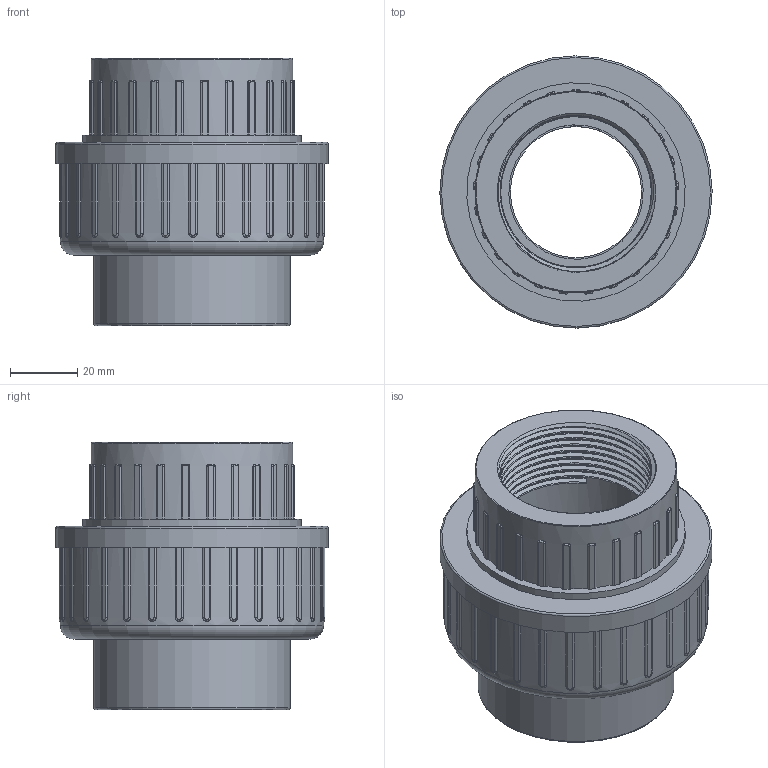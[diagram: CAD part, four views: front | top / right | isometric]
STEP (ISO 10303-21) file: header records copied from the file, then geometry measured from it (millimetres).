
FILE_DESCRIPTION(/* description */ (''),/* implementation_level */ '2;1');
FILE_NAME(/* name */ 'C:\Users\POLYPIPE\Desktop\DATASET INVENTOR\LIBRERIA EFFAST\3D_RACCORDI\RGR\3D_RGRBOG\3D_RGRBOG050F.stp',/* time_stamp */ '2018-01-22T14:34:19+01:00',/* author */ ('POLYPIPE'),/* organization */ (''),/* preprocessor_version */ 'ST-DEVELOPER v16.1',/* originating_system */ 'Autodesk Inventor 2016',/* authorisation */ '');
FILE_SCHEMA (('CONFIG_CONTROL_DESIGN'));
Length unit declared in the file: centimetre
Products named in the file (1): 3D_RGRBOG
Bounding box: 81 x 81 x 79.5 mm (x, y, z)
Volume: 154970.1 mm3; surface area: 43873.6 mm2
Topology: 1 solids, 2 shells, 460 faces, 1240 edges, 792 vertices
Faces by surface type: cylinder 197, plane 143, bspline 115, torus 4, cone 1
Full cylindrical faces by diameter (mm): 39 x1, 40 x1, 44.845 x1, 50 x1, 58.5 x1, 59.4 x1, 60 x1, 62 x1, 63.3 x1, 65 x1, 78.3 x1, 81 x1
Entity records: 20554 total; most frequent: CARTESIAN_POINT 8922, ORIENTED_EDGE 2440, DIRECTION 2238, EDGE_CURVE 1220, AXIS2_PLACEMENT_3D 855, VERTEX_POINT 788, LINE 528, VECTOR 528
